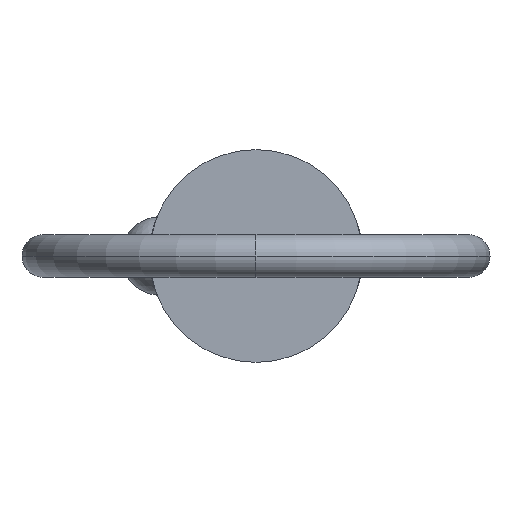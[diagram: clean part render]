
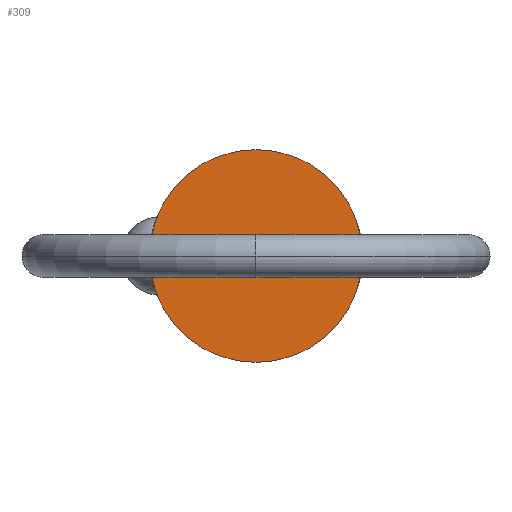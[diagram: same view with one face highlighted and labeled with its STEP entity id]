
A CAD part, left-side view. The second image highlights one B-rep face of the part: STEP entity #309.
In plain terms, the highlighted planar face has unit normal (-1, 0, 0).
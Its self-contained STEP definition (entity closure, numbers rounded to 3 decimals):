
#7 = ORIENTED_EDGE ( 'NONE', *, *, #857, .F. ) ;
#35 = CARTESIAN_POINT ( 'NONE',  ( 0., 0., -7.94 ) ) ;
#83 = CARTESIAN_POINT ( 'NONE',  ( 0., 0., 0. ) ) ;
#113 = VERTEX_POINT ( 'NONE', #240 ) ;
#116 = DIRECTION ( 'NONE',  ( 1., 0., 0. ) ) ;
#120 = CARTESIAN_POINT ( 'NONE',  ( 0., 0., 0. ) ) ;
#177 = DIRECTION ( 'NONE',  ( 0., 0., -1. ) ) ;
#212 = PLANE ( 'NONE',  #609 ) ;
#240 = CARTESIAN_POINT ( 'NONE',  ( 0., 0., 7.94 ) ) ;
#309 = ADVANCED_FACE ( 'NONE', ( #785 ), #212, .T. ) ;
#311 = CARTESIAN_POINT ( 'NONE',  ( 0., 0., 0. ) ) ;
#366 = DIRECTION ( 'NONE',  ( -1., 0., 0. ) ) ;
#394 = EDGE_CURVE ( 'NONE', #752, #113, #515, .T. ) ;
#515 = CIRCLE ( 'NONE', #627, 7.94 ) ;
#526 = AXIS2_PLACEMENT_3D ( 'NONE', #311, #592, #727 ) ;
#577 = DIRECTION ( 'NONE',  ( 0., 0., 1. ) ) ;
#592 = DIRECTION ( 'NONE',  ( 1., 0., 0. ) ) ;
#609 = AXIS2_PLACEMENT_3D ( 'NONE', #83, #366, #577 ) ;
#627 = AXIS2_PLACEMENT_3D ( 'NONE', #120, #116, #177 ) ;
#665 = CIRCLE ( 'NONE', #526, 7.94 ) ;
#683 = ORIENTED_EDGE ( 'NONE', *, *, #394, .F. ) ;
#727 = DIRECTION ( 'NONE',  ( 0., 0., -1. ) ) ;
#752 = VERTEX_POINT ( 'NONE', #35 ) ;
#785 = FACE_OUTER_BOUND ( 'NONE', #876, .T. ) ;
#857 = EDGE_CURVE ( 'NONE', #113, #752, #665, .T. ) ;
#876 = EDGE_LOOP ( 'NONE', ( #683, #7 ) ) ;
